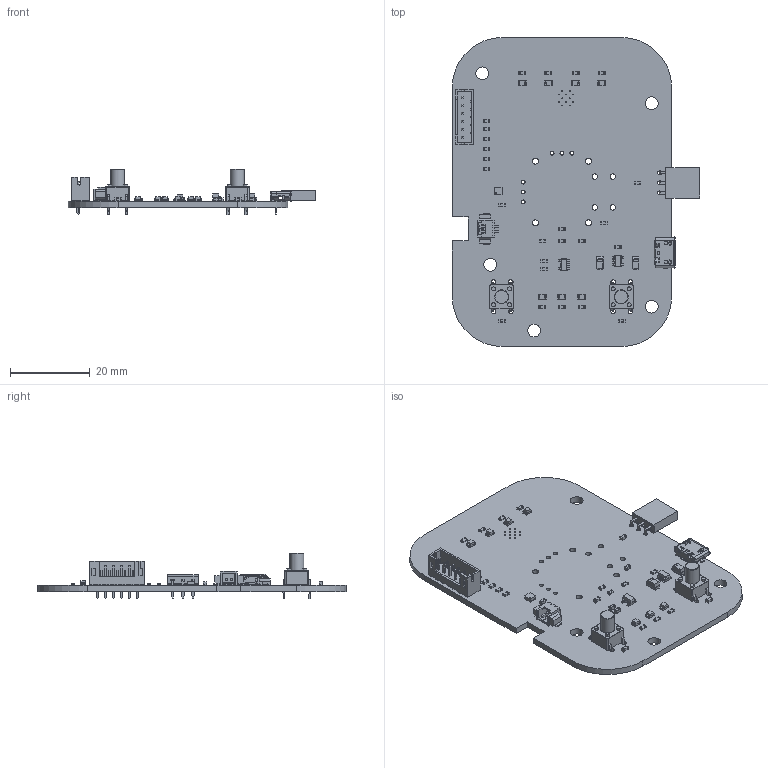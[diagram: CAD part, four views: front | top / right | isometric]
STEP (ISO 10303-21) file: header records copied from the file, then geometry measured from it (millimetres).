
FILE_DESCRIPTION(('KiCad electronic assembly'),'2;1');
FILE_NAME('controller.step','2021-06-30T16:37:59',('An Author'),( 'A Company'),'Open CASCADE STEP processor 6.9', 'KiCad to STEP converter','Unknown');
FILE_SCHEMA(('AUTOMOTIVE_DESIGN { 1 0 10303 214 1 1 1 1 }'));
Length unit declared in the file: millimetre
Products named in the file (24): Open CASCADE STEP translator 6.9 1; DFN-8-1EP_2x2mm_P0.5mm_EP0.7x1.3mm; SOLID; SOT-23-5; SW_PUSH_6mm_H8mm; PinSocket_1x03_P2.54mm_Horizontal; R_0603_1608Metric; JST_PH_B6B-PH-K_1x06_P2.00mm_Vertical; USB_Micro-B_Molex_47346-0001; Molex_PicoBlade_53261-0271_1x02-1MP_P1.25mm_Horizontal; LED_0805_2012Metric; C_0603_1608Metric; CP_EIA-3216-18_Kemet-A; COMPOUND
Assembly tree (55 placements, depth 3):
  Open CASCADE STEP translator 6.9 1
    DFN-8-1EP_2x2mm_P0.5mm_EP0.7x1.3mm
      SOLID
    SOT-23-5  x2
      SOLID
    SW_PUSH_6mm_H8mm  x2
      SOLID
    PinSocket_1x03_P2.54mm_Horizontal
      SOLID
    R_0603_1608Metric  x17
      SOLID
    JST_PH_B6B-PH-K_1x06_P2.00mm_Vertical
      SOLID
    USB_Micro-B_Molex_47346-0001
      SOLID
    Molex_PicoBlade_53261-0271_1x02-1MP_P1.25mm_Horizontal
      SOLID
    LED_0805_2012Metric  x7
      SOLID
    C_0603_1608Metric  x8
      SOLID
    CP_EIA-3216-18_Kemet-A  x2
      SOLID
    COMPOUND
Bounding box: 62.03 x 77.5 x 11.5 mm (x, y, z)
Volume: 7295.3 mm3; surface area: 10787.5 mm2
Topology: 44 solids, 44 shells, 2608 faces, 7039 edges, 4564 vertices
Faces by surface type: plane 1900, cylinder 626, bspline 76, sphere 4, torus 2
Full cylindrical faces by diameter (mm): 0.2 x12, 0.4 x1, 0.75 x6, 1 x17, 1.143 x8, 1.35 x4, 1.5 x4, 3.2 x5, 3.5 x2
Entity records: 111817 total; most frequent: CARTESIAN_POINT 22103, DIRECTION 14844, LINE 10259, VECTOR 10259, ORIENTED_EDGE 7938, PCURVE 7938, DEFINITIONAL_REPRESENTATION 7938, EDGE_CURVE 3969
